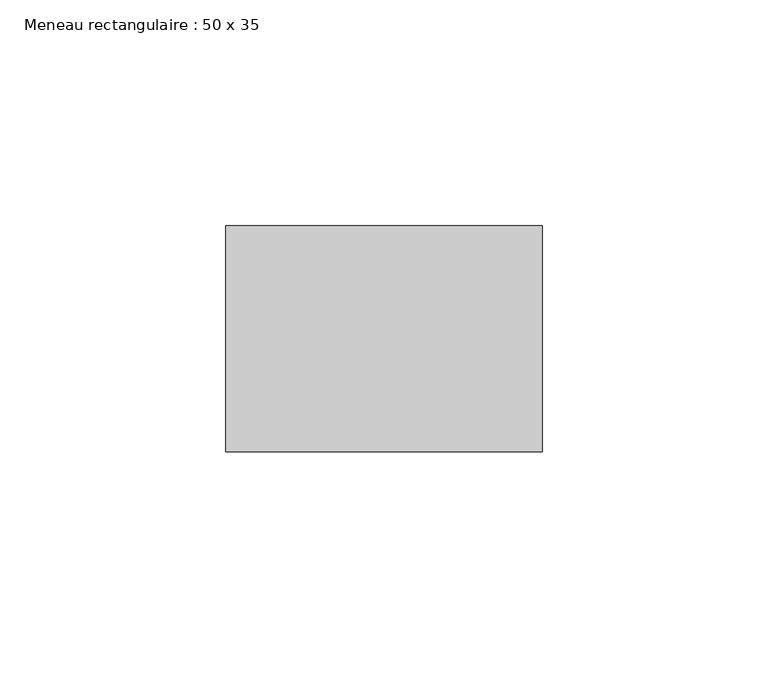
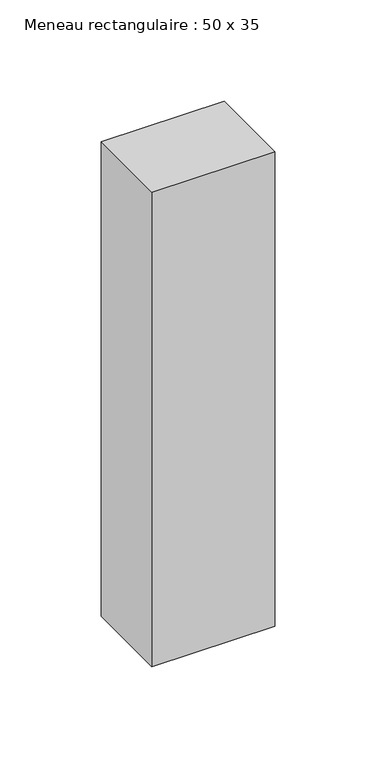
"""IFC4 building model written with IfcOpenShell, lengths in millimetres: member geometry, Meneau rectangulaire : 50 x 35."""

import ifcopenshell
import ifcopenshell.guid

model = None  # the IFC model being written
_history = None  # IfcOwnerHistory: only IFC2X3 demands one
_inside = {}  # id of a spatial element -> (the spatial element, [elements in it])
_under = {}  # id of a project, library or spatial element -> (it, [spatial elements below it])
_declared = {}  # id of a project -> (the project, [libraries it declares])
_typed = {}  # id of a type object -> (the type object, [elements of that type])
_made_of = {}  # id of a material, layer set ... -> (it, [elements and type objects made of it])


def new_model(schema):
    """Start an empty IFC model of exactly this schema.

    Asked for "IFC4X3", IfcOpenShell would pick the latest addendum, in which some entities
    have other attributes; the version numbers below select the first issue.
    IFC2X3 requires an IfcOwnerHistory on every rooted entity: one is made here for all.
    """
    global model, _history
    if schema == "IFC4X3":
        model = ifcopenshell.file(schema_version=(4, 3, 0, 0))
    else:
        model = ifcopenshell.file(schema=schema)
    _inside.clear()
    _under.clear()
    _declared.clear()
    _typed.clear()
    _made_of.clear()
    _history = None
    if model.schema == "IFC2X3":
        org = make("IfcOrganization", Name="unknown")
        user = make(
            "IfcPersonAndOrganization",
            ThePerson=make("IfcPerson", FamilyName="unknown"),
            TheOrganization=org,
        )
        app = make(
            "IfcApplication",
            ApplicationDeveloper=org,
            Version="unknown",
            ApplicationFullName="unknown",
            ApplicationIdentifier="unknown",
        )
        _history = make(
            "IfcOwnerHistory",
            OwningUser=user,
            OwningApplication=app,
            ChangeAction="ADDED",
            CreationDate=0,
        )
    return model


def make(cls, **values):
    """One entity of the class cls with the attributes given. An attribute that is None is left unset."""
    return model.create_entity(
        cls, **{name: value for name, value in values.items() if value is not None}
    )


def rooted(cls, **values):
    """An entity with a GlobalId (a new one), such as an element, a storey or a relation."""
    return make(cls, GlobalId=ifcopenshell.guid.new(), OwnerHistory=_history, **values)


def si_unit(unit_type, name, prefix=None):
    """IfcSIUnit, for example si_unit("LENGTHUNIT", "METRE", prefix="MILLI")."""
    return make("IfcSIUnit", UnitType=unit_type, Prefix=prefix, Name=name)


def assignment(units):
    """IfcUnitAssignment: the units of a project."""
    return None if units is None else make("IfcUnitAssignment", Units=units)


def point(xyz):
    """IfcCartesianPoint."""
    return None if xyz is None else make("IfcCartesianPoint", Coordinates=xyz)


def direction(xyz):
    """IfcDirection."""
    return None if xyz is None else make("IfcDirection", DirectionRatios=xyz)


def frame(location, z_axis=None, x_axis=None):
    """IfcAxis2Placement3D, a coordinate frame: its origin and axes. An axis left out is left unset."""
    return make(
        "IfcAxis2Placement3D",
        Location=point(location),
        Axis=direction(z_axis),
        RefDirection=direction(x_axis),
    )


def origin():
    """The frame at (0, 0, 0) with its axes left unset."""
    return frame((0.0, 0.0, 0.0))


def place(relative_to, where):
    """IfcLocalPlacement: puts the frame where relative to a parent placement (None: the world)."""
    return make(
        "IfcLocalPlacement", PlacementRelTo=relative_to, RelativePlacement=where
    )


def context(
    kind, dimensions, precision=None, world=None, true_north=None, identifier=None
):
    """IfcGeometricRepresentationContext, for example the 3D "Model" context."""
    return make(
        "IfcGeometricRepresentationContext",
        ContextIdentifier=identifier,
        ContextType=kind,
        CoordinateSpaceDimension=dimensions,
        Precision=precision,
        WorldCoordinateSystem=world,
        TrueNorth=true_north,
    )


def project(units=None, contexts=None):
    """IfcProject with its units and contexts."""
    return rooted(
        "IfcProject",
        Name="project",
        RepresentationContexts=contexts,
        UnitsInContext=assignment(units),
    )


def spatial(cls, under=None, at=None, **own):
    """A site, building, storey or space (cls), placed at a placement, below another one or the project."""
    s = rooted(cls, ObjectPlacement=at, **own)
    if under is not None:
        _under.setdefault(under.id(), (under, []))[1].append(s)
    return s


def polyline(points):
    """IfcPolyline through the points."""
    return make("IfcPolyline", Points=[point(p) for p in points])


def outline(outer, holes=None, kind="AREA"):
    """IfcArbitraryClosedProfileDef: a profile drawn as a closed curve; with holes, ...WithVoids."""
    if holes is None:
        return make("IfcArbitraryClosedProfileDef", ProfileType=kind, OuterCurve=outer)
    return make(
        "IfcArbitraryProfileDefWithVoids",
        ProfileType=kind,
        OuterCurve=outer,
        InnerCurves=holes,
    )


def extrude(swept, where, along, depth):
    """IfcExtrudedAreaSolid: the profile swept, set in the frame where, extruded along a direction by depth."""
    return make(
        "IfcExtrudedAreaSolid",
        SweptArea=swept,
        Position=where,
        ExtrudedDirection=direction(along),
        Depth=depth,
    )


def shape(context_of_items, identifier, shape_type, items):
    """IfcShapeRepresentation: the items that make up one representation, for example the "Body"."""
    return make(
        "IfcShapeRepresentation",
        ContextOfItems=context_of_items,
        RepresentationIdentifier=identifier,
        RepresentationType=shape_type,
        Items=items,
    )


def source(mapping_origin, context_of_items, identifier, shape_type, items):
    """IfcRepresentationMap: a shape defined once, which mapped items show again and again."""
    return make(
        "IfcRepresentationMap",
        MappingOrigin=mapping_origin,
        MappedRepresentation=shape(context_of_items, identifier, shape_type, items),
    )


def transform(
    local_origin,
    x_axis=None,
    y_axis=None,
    z_axis=None,
    scale=None,
    scale2=None,
    scale3=None,
    uniform=True,
):
    """IfcCartesianTransformationOperator3D, or its non-uniform kind. x_axis, y_axis, z_axis: its Axis1, 2, 3."""
    if uniform:
        return make(
            "IfcCartesianTransformationOperator3D",
            Axis1=direction(x_axis),
            Axis2=direction(y_axis),
            LocalOrigin=point(local_origin),
            Scale=scale,
            Axis3=direction(z_axis),
        )
    return make(
        "IfcCartesianTransformationOperator3DnonUniform",
        Axis1=direction(x_axis),
        Axis2=direction(y_axis),
        LocalOrigin=point(local_origin),
        Scale=scale,
        Axis3=direction(z_axis),
        Scale2=scale2,
        Scale3=scale3,
    )


def mapped(mapping_source, mapping_target):
    """IfcMappedItem: shows the shape of a source again, moved by a transform."""
    return make(
        "IfcMappedItem", MappingSource=mapping_source, MappingTarget=mapping_target
    )


def made_of(thing, what):
    """Note that an element or type object is made of a material, layer set ...; save() writes the relation."""
    if what is not None:
        _made_of.setdefault(what.id(), (what, []))[1].append(thing)
    return thing


def element(
    cls,
    number,
    at=None,
    inside=None,
    cuts=None,
    type_object=None,
    material=None,
    context=None,
    identifier="Body",
    shape_type=None,
    held_by="IfcProductDefinitionShape",
    body=None,
    shapes=None,
    **own,
):
    """One element of the class cls, such as IfcWall. Its Tag is "e" and its number.

    at: its placement. inside: the storey or other place that contains it. cuts: it is an
    opening in that element (IfcRelVoidsElement). A single representation is given by context,
    identifier, shape_type and body (its items); several are given by shapes. held_by: the class
    of the entity that holds the representations. save() writes the other relations.
    """
    e = rooted(cls, Tag="e%d" % number, ObjectPlacement=at, **own)
    if body is not None:
        shapes = [shape(context, identifier, shape_type, body)]
    if shapes is not None:
        e.Representation = make(held_by, Representations=shapes)
    if inside is not None:
        _inside.setdefault(inside.id(), (inside, []))[1].append(e)
    if cuts is not None:
        rooted(
            "IfcRelVoidsElement", RelatingBuildingElement=cuts, RelatedOpeningElement=e
        )
    if type_object is not None:
        _typed.setdefault(type_object.id(), (type_object, []))[1].append(e)
    return made_of(e, material)


def aggregate(whole, parts):
    """IfcRelAggregates: a whole, such as a stair, and the parts it consists of."""
    return rooted("IfcRelAggregates", RelatingObject=whole, RelatedObjects=parts)


def save(model, path):
    """Write the relations noted so far, then the file.

    IfcRelAggregates (storeys below a building ...), IfcRelContainedInSpatialStructure (elements
    in a storey), IfcRelDefinesByType, IfcRelAssociatesMaterial and IfcRelDeclares: one each for
    every whole, place, type object, material and project.
    """
    for whole, parts in _under.values():
        aggregate(whole, parts)
    for where, things in _inside.values():
        rooted(
            "IfcRelContainedInSpatialStructure",
            RelatedElements=things,
            RelatingStructure=where,
        )
    for kind, things in _typed.values():
        rooted("IfcRelDefinesByType", RelatedObjects=things, RelatingType=kind)
    for what, things in _made_of.values():
        rooted("IfcRelAssociatesMaterial", RelatedObjects=things, RelatingMaterial=what)
    for by, libraries in _declared.values():
        rooted("IfcRelDeclares", RelatingContext=by, RelatedDefinitions=libraries)
    model.write(path)


def meneau_rectangulaire_50_x_35_1c678422(model_context):
    return source(origin(), model_context, "Body", "SweptSolid", [
        extrude(outline(polyline([(35.0, 0.0), (35.0, -50.0), (-35.0, -50.0), (-35.0, 0.0), (35.0, 0.0)])), frame((0.0, 0.0, -286.0), z_axis=(0.0, 0.0, 1.0), x_axis=(1.0, 0.0, 0.0)), (0.0, 0.0, 1.0), 286.0),
    ])


if __name__ == "__main__":
    model = new_model("IFC4")
    model_context = context("Model", 3, world=origin())
    ifc_project = project(units=[si_unit("LENGTHUNIT", "METRE", prefix="MILLI")], contexts=[model_context])
    site = spatial("IfcSite", under=ifc_project)
    building = spatial("IfcBuilding", under=site)
    placement = place(None, origin())
    meneau_rectangulaire_50_x_35_shape = meneau_rectangulaire_50_x_35_1c678422(model_context)
    element("IfcMember", 1, ObjectType="Meneau rectangulaire : 50 x 35", at=placement, inside=building, context=model_context, shape_type="MappedRepresentation", body=[
        mapped(meneau_rectangulaire_50_x_35_shape, transform((0.0, 0.0, 0.0), x_axis=(1.0, 0.0, 0.0), y_axis=(0.0, 1.0, 0.0), z_axis=(0.0, 0.0, 1.0))),
    ])
    save(model, "model.ifc")
